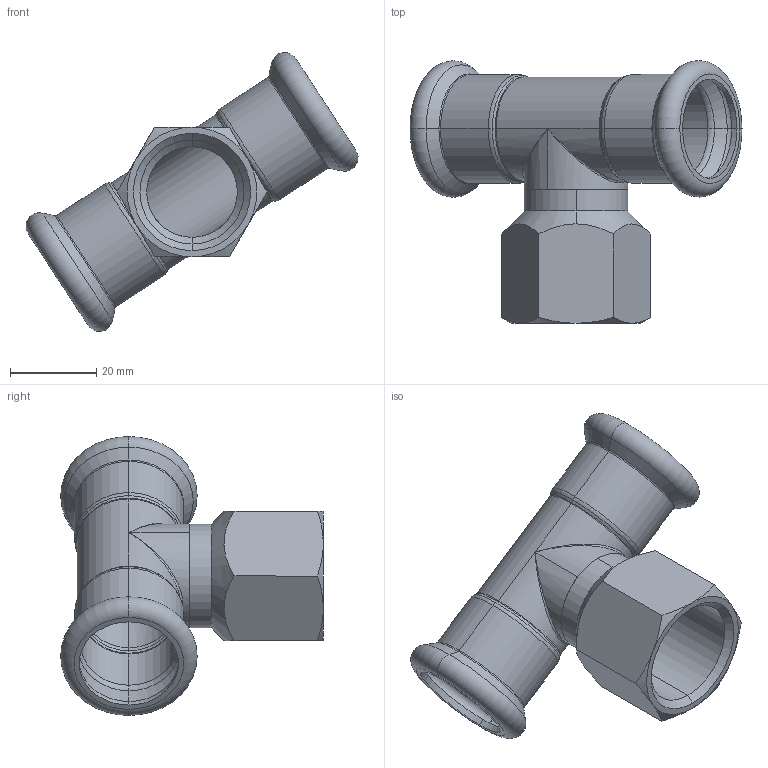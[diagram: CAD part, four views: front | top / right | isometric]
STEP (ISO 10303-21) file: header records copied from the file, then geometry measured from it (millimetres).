
FILE_DESCRIPTION (( 'STEP AP203' ), '1' );
FILE_NAME ('GDA5245.STEP', '2019-01-10T05:36:11', ( '' ), ( '' ), 'SwSTEP 2.0', 'SolidWorks 2015', '' );
FILE_SCHEMA (( 'CONFIG_CONTROL_DESIGN' ));
Length unit declared in the file: millimetre
Products named in the file (3): GDA5245; ITC-I-03-22℅?; ITCT22｡ﾁ?
Assembly tree (2 placements, depth 2):
  GDA5245
    ITC-I-03-22℅?
    ITCT22｡ﾁ?
Bounding box: 76.84 x 60.8 x 64.55 mm (x, y, z)
Volume: 17724.5 mm3; surface area: 18234.5 mm2
Topology: 2 solids, 2 shells, 105 faces, 222 edges, 114 vertices
Faces by surface type: torus 32, cone 28, cylinder 28, plane 13, bspline 4
Entity records: 3477 total; most frequent: CARTESIAN_POINT 970, DIRECTION 526, ORIENTED_EDGE 428, AXIS2_PLACEMENT_3D 234, EDGE_CURVE 214, CIRCLE 128, VERTEX_POINT 114, EDGE_LOOP 112
